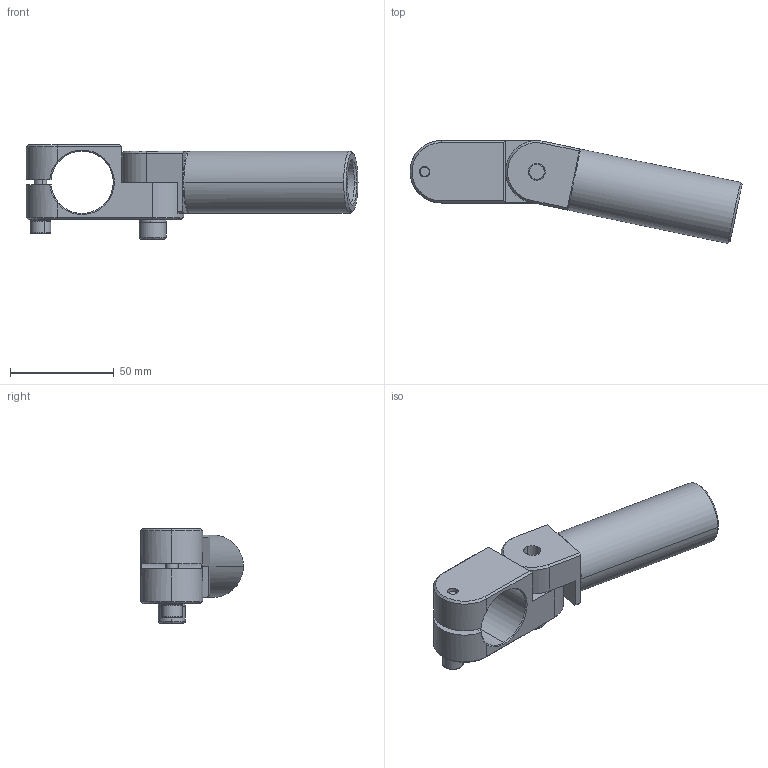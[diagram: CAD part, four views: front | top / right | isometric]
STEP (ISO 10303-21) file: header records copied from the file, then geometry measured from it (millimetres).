
FILE_DESCRIPTION (( 'STEP AP214' ), '1' );
FILE_NAME ('SEA-3030L80.STEP', '2019-11-11T03:05:09', ( '微软用户' ), ( '微软中国' ), 'SwSTEP 2.0', 'SolidWorks 2016', '' );
FILE_SCHEMA (( 'AUTOMOTIVE_DESIGN' ));
Length unit declared in the file: millimetre
Products named in the file (1): SEA-3030L80
Bounding box: 159.8 x 49.47 x 45.4 mm (x, y, z)
Volume: 88182.6 mm3; surface area: 31543.3 mm2
Topology: 6 solids, 6 shells, 520 faces, 1480 edges, 957 vertices
Faces by surface type: plane 437, cylinder 37, cone 26, bspline 20
Entity records: 25210 total; most frequent: CARTESIAN_POINT 5642, ORIENTED_EDGE 2928, DIRECTION 2921, EDGE_CURVE 1464, AXIS2_PLACEMENT_3D 992, VERTEX_POINT 957, LINE 937, VECTOR 937
